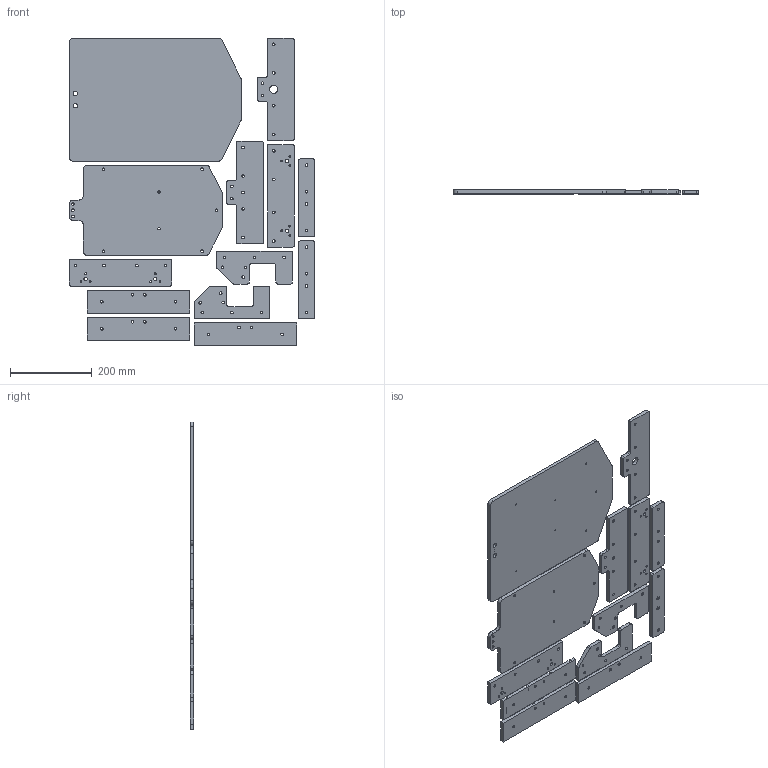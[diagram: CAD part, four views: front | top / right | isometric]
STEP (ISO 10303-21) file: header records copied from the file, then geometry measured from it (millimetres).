
FILE_DESCRIPTION(/* description */ (''),/* implementation_level */ '2;1');
FILE_NAME(/* name */ 'SPP - Specific Parts.step',/* time_stamp */ '2023-06-26T15:29:54+02:00',/* author */ (''),/* organization */ (''),/* preprocessor_version */ 'ST-DEVELOPER v19.2',/* originating_system */ 'Autodesk Translation Framework v12.6.0.85',/* authorisation */ '');
FILE_SCHEMA (('AUTOMOTIVE_DESIGN { 1 0 10303 214 3 1 1 }'));
Length unit declared in the file: millimetre
Products named in the file (16): SPP - Specific Parts; Arrange1; Envelope1(Qty: 1); Arm Top Plate Nuts; Arm Bottom Plate Fixing; Arm Bottom Plate Jaw; Arm Side Plate 01; Arm Side Plate 02; Arm Side Plate 03; Arm Top Plate Logo; Base Foot Bottom; Base Foot Top; Printing Board Bottom Plate; Printing Board Top Plate; Side Connector Left; Side Connector Right
Assembly tree (15 placements, depth 4):
  SPP - Specific Parts
    Arrange1
      Envelope1(Qty: 1)
        Arm Top Plate Nuts
        Arm Bottom Plate Fixing
        Arm Bottom Plate Jaw
        Arm Side Plate 01
        Arm Side Plate 02
        Arm Side Plate 03
        Arm Top Plate Logo
        Base Foot Bottom
        Base Foot Top
        Printing Board Bottom Plate
        Printing Board Top Plate
        Side Connector Left
        Side Connector Right
Bounding box: 599 x 9 x 750.86 mm (x, y, z)
Volume: 3024549.2 mm3; surface area: 779171.2 mm2
Topology: 13 solids, 13 shells, 383 faces, 978 edges, 652 vertices
Faces by surface type: plane 196, cylinder 173, bspline 14
Full cylindrical faces by diameter (mm): 4.2 x12, 5 x8, 6.2 x16, 6.3 x11, 6.4 x34, 6.5 x2, 8.2 x4, 10.5 x2, 11 x14, 19.2 x1, 19.25 x1, 20 x1
Entity records: 12636 total; most frequent: CARTESIAN_POINT 2251, DIRECTION 2100, ORIENTED_EDGE 1956, EDGE_CURVE 978, AXIS2_PLACEMENT_3D 749, VERTEX_POINT 652, LINE 602, VECTOR 602
